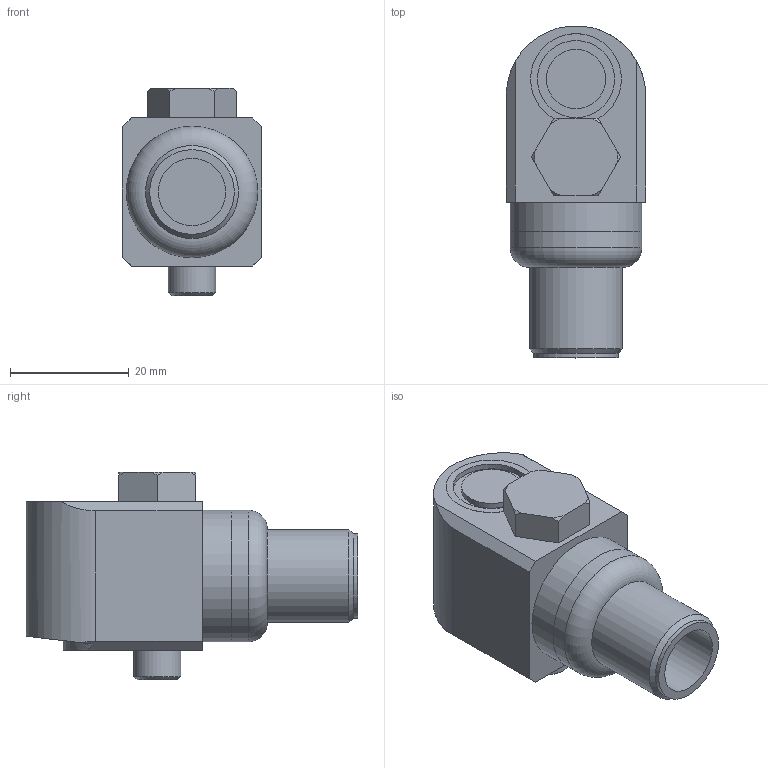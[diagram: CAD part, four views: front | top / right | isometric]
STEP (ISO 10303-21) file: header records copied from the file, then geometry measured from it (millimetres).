
FILE_DESCRIPTION(/* description */ (''),/* implementation_level */ '2;1');
FILE_NAME(/* name */ 'Z:\Engineering\Drawings\3D Library\Assemblies\Website\Premium Side\Compact\HS-170 Side 2 Pin MS\HS-170SXXX5008.stp',/* time_stamp */ '2023-03-20T15:02:51+00:00',/* author */ ('Ricardo.Peneda'),/* organization */ (''),/* preprocessor_version */ 'ST-DEVELOPER v18.1',/* originating_system */ 'Autodesk Inventor 2021',/* authorisation */ '');
FILE_SCHEMA (('AUTOMOTIVE_DESIGN { 1 0 10303 214 3 1 1 }'));
Length unit declared in the file: inch
Products named in the file (1): HS-170SXXX5008_Shrinkwrap_1
Bounding box: 23.5 x 56.02 x 35 mm (x, y, z)
Volume: 17044 mm3; surface area: 10088.1 mm2
Topology: 4 solids, 4 shells, 69 faces, 175 edges, 125 vertices
Faces by surface type: plane 34, cylinder 25, cone 9, torus 1
Full cylindrical faces by diameter (mm): 2.5 x1, 6 x1, 6.4 x1, 7 x1, 8 x1, 10 x1, 11.37 x1, 13 x1, 14.28 x1, 14.9 x1, 15.34 x1, 15.35 x1, 15.7 x1, 19 x1, 20 x1, 22.2 x2
Entity records: 2305 total; most frequent: CARTESIAN_POINT 423, DIRECTION 398, ORIENTED_EDGE 350, EDGE_CURVE 175, AXIS2_PLACEMENT_3D 167, VERTEX_POINT 125, CIRCLE 86, EDGE_LOOP 84
